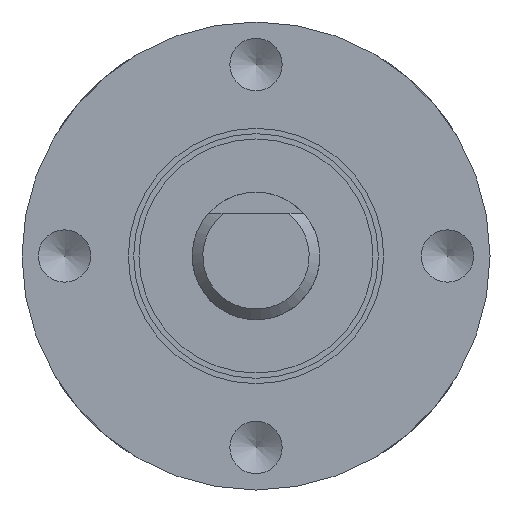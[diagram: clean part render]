
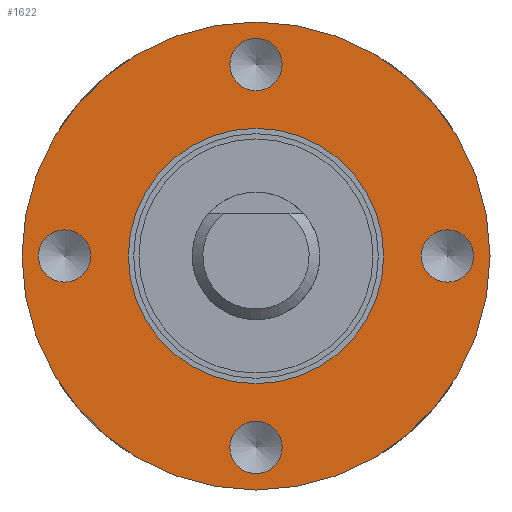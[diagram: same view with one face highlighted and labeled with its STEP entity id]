
A CAD part, front view. The second image highlights one B-rep face of the part: STEP entity #1622.
In plain terms, the highlighted planar face has unit normal (0, -1, 0).
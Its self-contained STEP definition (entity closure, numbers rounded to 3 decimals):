
#171=CARTESIAN_POINT('',(10.23,0.0,0.0));
#172=VERTEX_POINT('',#171);
#173=CARTESIAN_POINT('',(9.0,0.0,0.0));
#174=DIRECTION('',(0.0,1.0,0.0));
#175=DIRECTION('',(1.0,0.0,0.0));
#176=AXIS2_PLACEMENT_3D('',#173,#174,#175);
#177=CIRCLE('',#176,1.23);
#178=EDGE_CURVE('',#172,#172,#177,.T.);
#250=CARTESIAN_POINT('',(-7.771,0.0,0.0));
#251=VERTEX_POINT('',#250);
#252=CARTESIAN_POINT('',(-9.0,0.0,0.0));
#253=DIRECTION('',(0.0,1.0,0.0));
#254=DIRECTION('',(1.0,0.0,0.0));
#255=AXIS2_PLACEMENT_3D('',#252,#253,#254);
#256=CIRCLE('',#255,1.23);
#257=EDGE_CURVE('',#251,#251,#256,.T.);
#329=CARTESIAN_POINT('',(1.23,0.0,9.0));
#330=VERTEX_POINT('',#329);
#331=CARTESIAN_POINT('',(0.0,0.0,9.0));
#332=DIRECTION('',(0.0,1.0,0.0));
#333=DIRECTION('',(1.0,0.0,0.0));
#334=AXIS2_PLACEMENT_3D('',#331,#332,#333);
#335=CIRCLE('',#334,1.23);
#336=EDGE_CURVE('',#330,#330,#335,.T.);
#408=CARTESIAN_POINT('',(1.23,0.0,-9.0));
#409=VERTEX_POINT('',#408);
#410=CARTESIAN_POINT('',(0.0,0.0,-9.0));
#411=DIRECTION('',(0.0,1.0,0.0));
#412=DIRECTION('',(1.0,0.0,0.0));
#413=AXIS2_PLACEMENT_3D('',#410,#411,#412);
#414=CIRCLE('',#413,1.23);
#415=EDGE_CURVE('',#409,#409,#414,.T.);
#662=CARTESIAN_POINT('',(6.,0.0,0.));
#663=VERTEX_POINT('',#662);
#664=CARTESIAN_POINT('',(0.0,0.0,0.0));
#665=DIRECTION('',(0.0,1.0,0.0));
#666=DIRECTION('',(-1.0,0.0,0.0));
#667=AXIS2_PLACEMENT_3D('',#664,#665,#666);
#668=CIRCLE('',#667,6.);
#669=EDGE_CURVE('',#663,#663,#668,.T.);
#1531=CARTESIAN_POINT('',(-11.0,0.0,0.));
#1532=VERTEX_POINT('',#1531);
#1533=CARTESIAN_POINT('',(0.0,0.0,0.0));
#1534=DIRECTION('',(0.0,-1.0,0.0));
#1535=DIRECTION('',(1.0,0.0,0.0));
#1536=AXIS2_PLACEMENT_3D('',#1533,#1534,#1535);
#1537=CIRCLE('',#1536,11.0);
#1538=EDGE_CURVE('',#1532,#1532,#1537,.T.);
#1599=CARTESIAN_POINT('',(0.0,0.0,0.0));
#1600=DIRECTION('',(0.0,-1.0,0.0));
#1601=DIRECTION('',(0.0,0.0,-1.0));
#1602=AXIS2_PLACEMENT_3D('',#1599,#1600,#1601);
#1603=PLANE('',#1602);
#1604=ORIENTED_EDGE('',*,*,#1538,.T.);
#1605=EDGE_LOOP('',(#1604));
#1606=FACE_OUTER_BOUND('',#1605,.T.);
#1607=ORIENTED_EDGE('',*,*,#178,.T.);
#1608=EDGE_LOOP('',(#1607));
#1609=FACE_BOUND('',#1608,.T.);
#1610=ORIENTED_EDGE('',*,*,#257,.T.);
#1611=EDGE_LOOP('',(#1610));
#1612=FACE_BOUND('',#1611,.T.);
#1613=ORIENTED_EDGE('',*,*,#336,.T.);
#1614=EDGE_LOOP('',(#1613));
#1615=FACE_BOUND('',#1614,.T.);
#1616=ORIENTED_EDGE('',*,*,#415,.T.);
#1617=EDGE_LOOP('',(#1616));
#1618=FACE_BOUND('',#1617,.T.);
#1619=ORIENTED_EDGE('',*,*,#669,.T.);
#1620=EDGE_LOOP('',(#1619));
#1621=FACE_BOUND('',#1620,.T.);
#1622=ADVANCED_FACE('',(#1606,#1609,#1612,#1615,#1618,#1621),#1603,.T.);
